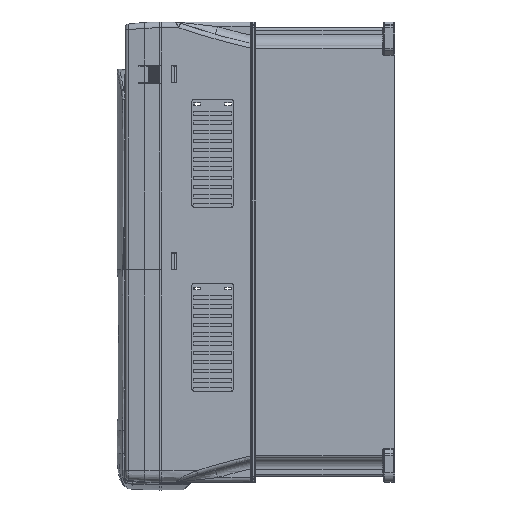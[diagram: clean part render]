
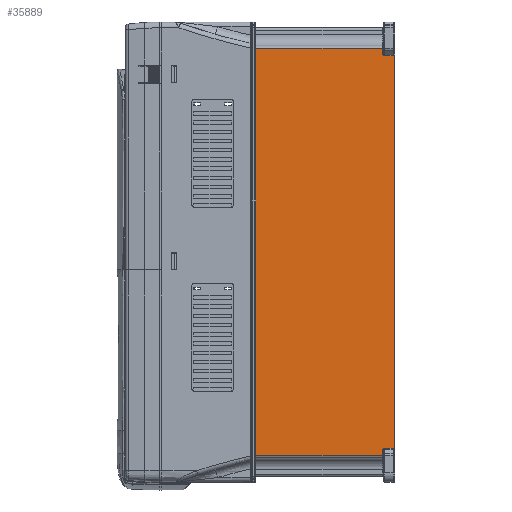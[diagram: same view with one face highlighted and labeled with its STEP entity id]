
A CAD part, left-side view. The second image highlights one B-rep face of the part: STEP entity #35889.
In plain terms, the highlighted planar face has unit normal (-1, 0, 0).
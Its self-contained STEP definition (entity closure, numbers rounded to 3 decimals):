
#2=DIRECTION('',(0.,0.,1.));
#3=VECTOR('',#2,342.);
#4=CARTESIAN_POINT('',(-122.5,-54.,-171.));
#5=LINE('',#4,#3);
#26=DIRECTION('',(0.,0.,-1.));
#27=VECTOR('',#26,3.586);
#28=CARTESIAN_POINT('',(-122.5,-43.,-173.414));
#29=LINE('',#28,#27);
#30=DIRECTION('',(0.,0.,-1.));
#31=VECTOR('',#30,3.586);
#32=CARTESIAN_POINT('',(-122.5,-43.,177.));
#33=LINE('',#32,#31);
#34=CARTESIAN_POINT('',(-122.5,-43.,173.414));
#35=CARTESIAN_POINT('',(-122.5,-43.,173.259));
#36=CARTESIAN_POINT('',(-122.5,-43.018,172.963));
#37=CARTESIAN_POINT('',(-122.5,-43.086,172.564));
#38=CARTESIAN_POINT('',(-122.5,-43.185,172.206));
#39=CARTESIAN_POINT('',(-122.5,-43.309,171.89));
#40=CARTESIAN_POINT('',(-122.5,-43.45,171.616));
#41=CARTESIAN_POINT('',(-122.5,-43.604,171.381));
#42=CARTESIAN_POINT('',(-122.5,-43.769,171.177));
#43=CARTESIAN_POINT('',(-122.5,-43.953,170.997));
#44=CARTESIAN_POINT('',(-122.5,-44.164,170.837));
#45=CARTESIAN_POINT('',(-122.5,-44.407,170.704));
#46=CARTESIAN_POINT('',(-122.5,-44.684,170.611));
#47=CARTESIAN_POINT('',(-122.5,-44.891,170.586));
#48=CARTESIAN_POINT('',(-122.5,-45.,170.586));
#50=DIRECTION('',(0.,-1.,0.));
#51=VECTOR('',#50,7.5);
#52=CARTESIAN_POINT('',(-122.5,-45.,170.586));
#53=LINE('',#52,#51);
#54=DIRECTION('',(0.,0.,1.));
#55=VECTOR('',#54,0.414);
#56=CARTESIAN_POINT('',(-122.5,-52.5,170.586));
#57=LINE('',#56,#55);
#58=DIRECTION('',(0.,1.,0.));
#59=VECTOR('',#58,1.5);
#60=CARTESIAN_POINT('',(-122.5,-54.,171.));
#61=LINE('',#60,#59);
#62=DIRECTION('',(0.,1.,0.));
#63=VECTOR('',#62,1.5);
#64=CARTESIAN_POINT('',(-122.5,-54.,-171.));
#65=LINE('',#64,#63);
#66=DIRECTION('',(0.,0.,-1.));
#67=VECTOR('',#66,0.414);
#68=CARTESIAN_POINT('',(-122.5,-52.5,-170.586));
#69=LINE('',#68,#67);
#70=DIRECTION('',(0.,1.,0.));
#71=VECTOR('',#70,7.5);
#72=CARTESIAN_POINT('',(-122.5,-52.5,-170.586));
#73=LINE('',#72,#71);
#74=CARTESIAN_POINT('',(-122.5,-45.,-170.586));
#75=CARTESIAN_POINT('',(-122.5,-44.93,-170.586));
#76=CARTESIAN_POINT('',(-122.5,-44.783,-170.596));
#77=CARTESIAN_POINT('',(-122.5,-44.545,-170.652));
#78=CARTESIAN_POINT('',(-122.5,-44.296,-170.758));
#79=CARTESIAN_POINT('',(-122.5,-44.046,-170.918));
#80=CARTESIAN_POINT('',(-122.5,-43.813,-171.127));
#81=CARTESIAN_POINT('',(-122.5,-43.599,-171.382));
#82=CARTESIAN_POINT('',(-122.5,-43.408,-171.685));
#83=CARTESIAN_POINT('',(-122.5,-43.245,-172.035));
#84=CARTESIAN_POINT('',(-122.5,-43.114,-172.436));
#85=CARTESIAN_POINT('',(-122.5,-43.023,-172.9));
#86=CARTESIAN_POINT('',(-122.5,-43.,-173.237));
#87=CARTESIAN_POINT('',(-122.5,-43.,-173.414));
#9973=DIRECTION('',(0.,0.,1.));
#9974=VECTOR('',#9973,354.);
#9975=CARTESIAN_POINT('',(-122.5,67.,-177.));
#9976=LINE('',#9975,#9974);
#10234=DIRECTION('',(0.,-1.,0.));
#10235=VECTOR('',#10234,110.);
#10236=CARTESIAN_POINT('',(-122.5,67.,-177.));
#10237=LINE('',#10236,#10235);
#15443=DIRECTION('',(0.,1.,0.));
#15444=VECTOR('',#15443,110.);
#15445=CARTESIAN_POINT('',(-122.5,-43.,177.));
#15446=LINE('',#15445,#15444);
#30582=CARTESIAN_POINT('',(-122.5,-54.,-171.));
#30583=CARTESIAN_POINT('',(-122.5,-54.,171.));
#30584=VERTEX_POINT('',#30582);
#30585=VERTEX_POINT('',#30583);
#32502=CARTESIAN_POINT('',(-122.5,67.,-177.));
#32503=CARTESIAN_POINT('',(-122.5,67.,177.));
#32504=VERTEX_POINT('',#32502);
#32505=VERTEX_POINT('',#32503);
#35054=CARTESIAN_POINT('',(-122.5,-43.,-177.));
#35055=VERTEX_POINT('',#35054);
#35058=CARTESIAN_POINT('',(-122.5,-43.,
-173.414));
#35059=VERTEX_POINT('',#35058);
#35062=VERTEX_POINT('',#74);
#35066=CARTESIAN_POINT('',(-122.5,-52.5,-170.586));
#35067=VERTEX_POINT('',#35066);
#35068=CARTESIAN_POINT('',(-122.5,-52.5,-171.));
#35069=VERTEX_POINT('',#35068);
#35152=CARTESIAN_POINT('',(-122.5,-45.,
170.586));
#35153=CARTESIAN_POINT('',(-122.5,-52.5,170.586));
#35154=VERTEX_POINT('',#35152);
#35155=VERTEX_POINT('',#35153);
#35160=VERTEX_POINT('',#34);
#35162=CARTESIAN_POINT('',(-122.5,-43.,177.));
#35163=VERTEX_POINT('',#35162);
#35193=CARTESIAN_POINT('',(-122.5,-52.5,171.));
#35194=VERTEX_POINT('',#35193);
#35855=CARTESIAN_POINT('',(-122.5,-54.,-195.));
#35856=DIRECTION('',(-1.,0.,0.));
#35857=DIRECTION('',(0.,0.,1.));
#35858=AXIS2_PLACEMENT_3D('',#35855,#35856,#35857);
#35859=PLANE('',#35858);
#35861=ORIENTED_EDGE('',*,*,#35860,.T.);
#35863=ORIENTED_EDGE('',*,*,#35862,.F.);
#35865=ORIENTED_EDGE('',*,*,#35864,.T.);
#35867=ORIENTED_EDGE('',*,*,#35866,.F.);
#35869=ORIENTED_EDGE('',*,*,#35868,.T.);
#35871=ORIENTED_EDGE('',*,*,#35870,.T.);
#35873=ORIENTED_EDGE('',*,*,#35872,.T.);
#35875=ORIENTED_EDGE('',*,*,#35874,.T.);
#35877=ORIENTED_EDGE('',*,*,#35876,.F.);
#35878=ORIENTED_EDGE('',*,*,#35828,.F.);
#35880=ORIENTED_EDGE('',*,*,#35879,.T.);
#35882=ORIENTED_EDGE('',*,*,#35881,.F.);
#35884=ORIENTED_EDGE('',*,*,#35883,.T.);
#35886=ORIENTED_EDGE('',*,*,#35885,.T.);
#35887=EDGE_LOOP('',(#35861,#35863,#35865,#35867,#35869,#35871,#35873,#35875,
#35877,#35878,#35880,#35882,#35884,#35886));
#35888=FACE_OUTER_BOUND('',#35887,.F.);
#49=B_SPLINE_CURVE_WITH_KNOTS('',3,(#34,#35,#36,#37,#38,#39,#40,#41,#42,#43,#44,
#45,#46,#47,#48),.UNSPECIFIED.,.F.,.F.,(4,1,1,1,1,1,1,1,1,1,1,1,4),(0.,
0.083,0.167,0.25,0.333,0.417,
0.5,0.583,0.667,0.75,0.833,
0.917,1.),.UNSPECIFIED.);
#88=B_SPLINE_CURVE_WITH_KNOTS('',3,(#74,#75,#76,#77,#78,#79,#80,#81,#82,#83,#84,
#85,#86,#87),.UNSPECIFIED.,.F.,.F.,(4,1,1,1,1,1,1,1,1,1,1,4),(0.,
0.091,0.182,0.273,0.364,
0.455,0.545,0.636,0.727,
0.818,0.909,1.),.UNSPECIFIED.);
#35828=EDGE_CURVE('',#30584,#30585,#5,.T.);
#35860=EDGE_CURVE('',#35059,#35055,#29,.T.);
#35862=EDGE_CURVE('',#32504,#35055,#10237,.T.);
#35864=EDGE_CURVE('',#32504,#32505,#9976,.T.);
#35866=EDGE_CURVE('',#35163,#32505,#15446,.T.);
#35868=EDGE_CURVE('',#35163,#35160,#33,.T.);
#35870=EDGE_CURVE('',#35160,#35154,#49,.T.);
#35872=EDGE_CURVE('',#35154,#35155,#53,.T.);
#35874=EDGE_CURVE('',#35155,#35194,#57,.T.);
#35876=EDGE_CURVE('',#30585,#35194,#61,.T.);
#35879=EDGE_CURVE('',#30584,#35069,#65,.T.);
#35881=EDGE_CURVE('',#35067,#35069,#69,.T.);
#35883=EDGE_CURVE('',#35067,#35062,#73,.T.);
#35885=EDGE_CURVE('',#35062,#35059,#88,.T.);
#35889=ADVANCED_FACE('',(#35888),#35859,.T.);
